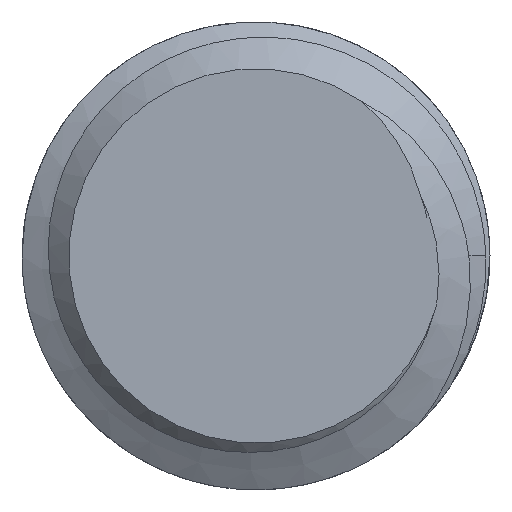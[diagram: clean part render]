
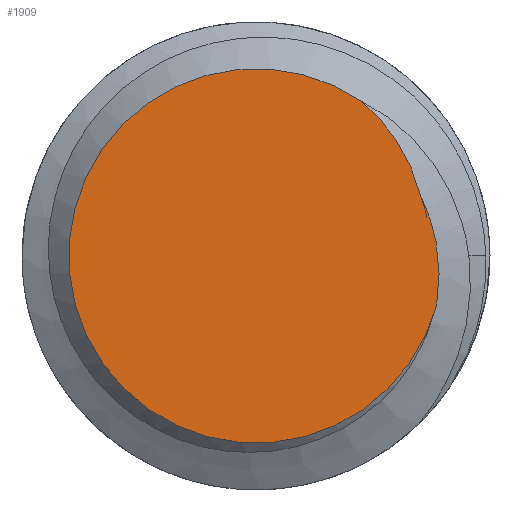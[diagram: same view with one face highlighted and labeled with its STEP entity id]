
A CAD part, front view. The second image highlights one B-rep face of the part: STEP entity #1909.
In plain terms, the highlighted planar face has unit normal (0, -1, 0).
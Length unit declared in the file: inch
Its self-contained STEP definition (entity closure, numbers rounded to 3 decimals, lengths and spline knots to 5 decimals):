
#139 = B_SPLINE_CURVE_WITH_KNOTS ( 'NONE', 3,
 ( #2563, #229, #1480, #477, #2303, #1302, #1567, #2317 ),
 .UNSPECIFIED., .F., .F.,
 ( 4, 2, 2, 4 ),
 ( 0., 0.25, 0.5, 1. ),
 .UNSPECIFIED. ) ;
#229 = CARTESIAN_POINT ( 'NONE',  ( 0.13644, 0., 0.05855 ) ) ;
#477 = CARTESIAN_POINT ( 'NONE',  ( 0.12791, 0., 0.08026 ) ) ;
#514 = VERTEX_POINT ( 'NONE', #2294 ) ;
#561 = AXIS2_PLACEMENT_3D ( 'NONE', #675, #1100, #688 ) ;
#675 = CARTESIAN_POINT ( 'NONE',  ( 0., 0., 0. ) ) ;
#682 = DIRECTION ( 'NONE',  ( 0., 1., 0. ) ) ;
#688 = DIRECTION ( 'NONE',  ( 0.564, 0., 0.826 ) ) ;
#725 = B_SPLINE_CURVE_WITH_KNOTS ( 'NONE', 3,
 ( #2016, #1641, #2487, #1708, #1853, #1429, #1867, #2295, #2543, #1015, #1455 ),
 .UNSPECIFIED., .F., .F.,
 ( 4, 1, 1, 1, 2, 2, 4 ),
 ( 0., 0.25, 0.375, 0.4375, 0.46875, 0.5, 1. ),
 .UNSPECIFIED. ) ;
#861 = FACE_OUTER_BOUND ( 'NONE', #2511, .T. ) ;
#943 = VERTEX_POINT ( 'NONE', #2383 ) ;
#1015 = CARTESIAN_POINT ( 'NONE',  ( 0.14506, 0., 0.03745 ) ) ;
#1100 = DIRECTION ( 'NONE',  ( 0., -1., 0. ) ) ;
#1280 = PLANE ( 'NONE',  #1333 ) ;
#1302 = CARTESIAN_POINT ( 'NONE',  ( 0.11163, 0., 0.10753 ) ) ;
#1303 = EDGE_CURVE ( 'NONE', #514, #943, #725, .T. ) ;
#1333 = AXIS2_PLACEMENT_3D ( 'NONE', #2538, #682, #2142 ) ;
#1429 = CARTESIAN_POINT ( 'NONE',  ( 0.15268, 0., 0.00402 ) ) ;
#1455 = CARTESIAN_POINT ( 'NONE',  ( 0.13833, 0., 0.05095 ) ) ;
#1474 = CARTESIAN_POINT ( 'NONE',  ( 0.08885, 0., 0.13002 ) ) ;
#1480 = CARTESIAN_POINT ( 'NONE',  ( 0.13398, 0., 0.06593 ) ) ;
#1567 = CARTESIAN_POINT ( 'NONE',  ( 0.10121, 0., 0.11956 ) ) ;
#1641 = CARTESIAN_POINT ( 'NONE',  ( 0.15332, 0., -0.03305 ) ) ;
#1708 = CARTESIAN_POINT ( 'NONE',  ( 0.1538, 0., -0.00624 ) ) ;
#1716 = ORIENTED_EDGE ( 'NONE', *, *, #1899, .T. ) ;
#1853 = CARTESIAN_POINT ( 'NONE',  ( 0.15308, 0., 0.00095 ) ) ;
#1867 = CARTESIAN_POINT ( 'NONE',  ( 0.15239, 0., 0.00608 ) ) ;
#1899 = EDGE_CURVE ( 'NONE', #943, #2183, #139, .T. ) ;
#1909 = ADVANCED_FACE ( 'NONE', ( #861 ), #1280, .F. ) ;
#2016 = CARTESIAN_POINT ( 'NONE',  ( 0.15196, 0., -0.04134 ) ) ;
#2051 = ORIENTED_EDGE ( 'NONE', *, *, #2298, .T. ) ;
#2142 = DIRECTION ( 'NONE',  ( 1., 0., 0. ) ) ;
#2183 = VERTEX_POINT ( 'NONE', #1474 ) ;
#2294 = CARTESIAN_POINT ( 'NONE',  ( 0.15196, 0., -0.04134 ) ) ;
#2295 = CARTESIAN_POINT ( 'NONE',  ( 0.15222, 0., 0.00719 ) ) ;
#2298 = EDGE_CURVE ( 'NONE', #2183, #514, #2351, .T. ) ;
#2303 = CARTESIAN_POINT ( 'NONE',  ( 0.12433, 0., 0.08714 ) ) ;
#2317 = CARTESIAN_POINT ( 'NONE',  ( 0.08885, 0., 0.13002 ) ) ;
#2351 = CIRCLE ( 'NONE', #561, 0.15748 ) ;
#2383 = CARTESIAN_POINT ( 'NONE',  ( 0.13833, 0., 0.05095 ) ) ;
#2387 = ORIENTED_EDGE ( 'NONE', *, *, #1303, .T. ) ;
#2487 = CARTESIAN_POINT ( 'NONE',  ( 0.15435, 0., -0.02065 ) ) ;
#2511 = EDGE_LOOP ( 'NONE', ( #2051, #2387, #1716 ) ) ;
#2538 = CARTESIAN_POINT ( 'NONE',  ( 0., 0., 0. ) ) ;
#2543 = CARTESIAN_POINT ( 'NONE',  ( 0.14964, 0., 0.02318 ) ) ;
#2563 = CARTESIAN_POINT ( 'NONE',  ( 0.13833, 0., 0.05095 ) ) ;
